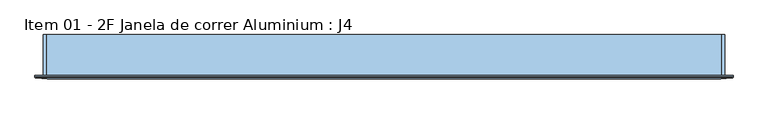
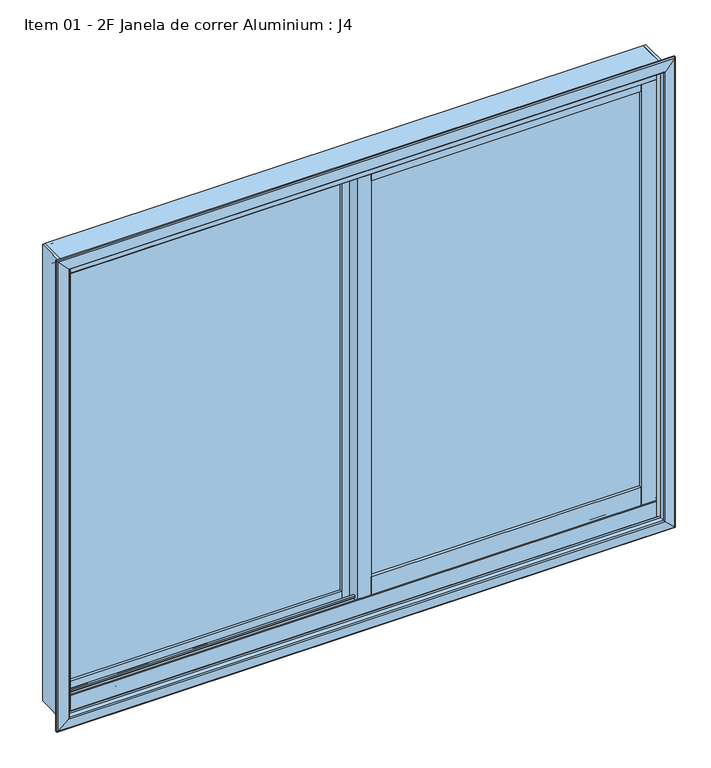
"""IFC4 building model written with IfcOpenShell, lengths in millimetres: window geometry, Item 01 - 2F Janela de correr Aluminium : J4."""

from ifc_helpers import new_model, si_unit, frame, origin, place, context, project, spatial, polyline, circle_curve, ellipse_curve, outline, extrude, source, transform, mapped, element, save
from ifc_brep_helpers import plane_surface, cylinder_surface, revolved_surface, advanced_brep


def item_01_2f_janela_de_correr_aluminium_j4_4bfe350a(model_context):
    return source(origin(), model_context, "Body", "SolidModel", [
        extrude(outline(polyline([(-27.3998339, -10.3), (-27.3998339, -14.3), (-704.750983, -14.3), (-704.750983, -10.3), (-27.3998339, -10.3)])), frame((0.0, 0.0, 857.0), z_axis=(0.0, 0.0, 1.0), x_axis=(1.0, 0.0, 0.0)), (0.0, 0.0, 1.0), 1080.5),
        extrude(outline(polyline([(27.2998339, -45.9), (27.2998339, -41.9), (698.868646, -41.9), (698.868646, -45.9), (27.2998339, -45.9)])), frame((0.0, 0.0, 895.5), z_axis=(0.0, 0.0, 1.0), x_axis=(1.0, 0.0, 0.0)), (0.0, 0.0, 1.0), 1042.0),
        extrude(outline(polyline([(698.868646, -33.9), (698.868646, -53.9), (27.2998339, -53.9), (27.2998339, -33.9), (698.868646, -33.9)])), frame((0.0, 0.0, 847.9996573), z_axis=(0.0, 0.0, 1.0), x_axis=(1.0, 0.0, 0.0)), (0.0, 0.0, 1.0), 47.5003427),
        extrude(outline(polyline([(698.868646, -33.9), (698.868646, -53.9), (27.2998339, -53.9), (27.2998339, -33.9), (698.868646, -33.9)])), frame((0.0, 0.0, 1937.4996573), z_axis=(0.0, 0.0, 1.0), x_axis=(1.0, 0.0, 0.0)), (0.0, 0.0, 1.0), 34.5),
        extrude(outline(polyline([(-27.3998339, -2.3), (-27.3998339, -22.3), (-704.750983, -22.3), (-704.750983, -2.3), (-27.3998339, -2.3)])), frame((0.0, 0.0, 821.0), z_axis=(0.0, 0.0, 1.0), x_axis=(1.0, 0.0, 0.0)), (0.0, 0.0, 1.0), 36.0),
        extrude(outline(polyline([(-27.3998339, -2.3), (-27.3998339, -22.3), (-704.750983, -22.3), (-704.750983, -2.3), (-27.3998339, -2.3)])), frame((0.0, 0.0, 1937.5), z_axis=(0.0, 0.0, 1.0), x_axis=(1.0, 0.0, 0.0)), (0.0, 0.0, 1.0), 34.5),
        extrude(outline(polyline([(-704.750983, -22.3), (-743.0, -22.3), (-743.0, -2.3), (-704.750983, -2.3), (-704.750983, -22.3)])), frame((0.0, 0.0, 821.0), z_axis=(0.0, 0.0, 1.0), x_axis=(1.0, 0.0, 0.0)), (0.0, 0.0, 1.0), 1151.0),
        extrude(outline(polyline([(-27.3998339, -22.3), (-27.3998339, -2.3), (7.6001661, -2.3), (7.6001661, -33.9), (27.2998339, -33.9), (27.2998339, -53.9), (-7.6001661, -53.9), (-7.6001661, -22.3), (-27.3998339, -22.3)])), frame((0.0, 0.0, 821.0), z_axis=(0.0, 0.0, 1.0), x_axis=(1.0, 0.0, 0.0)), (0.0, 0.0, 1.0), 1151.0),
        extrude(outline(polyline([(743.0, -53.9), (698.868646, -53.9), (698.868646, -33.9), (743.0, -33.9), (743.0, -53.9)])), frame((0.0, 0.0, 821.0), z_axis=(0.0, 0.0, 1.0), x_axis=(1.0, 0.0, 0.0)), (0.0, 0.0, 1.0), 1151.0),
        advanced_brep(
        [(-742.5998339, 8.5620965, 810.2470077), (-742.5998339, 8.5620965, 801.4000436), (-742.5998339, 13.600001, 801.4000436), (-742.5998339, 13.600001, 807.4000364), (-742.5998339, 14.9999993, 807.4000364), (-742.5998339, 15.0, 800.0), (-742.5998339, -75.0, 800.0), (-742.5998339, -75.0, 807.4000364), (-742.5998339, -73.6000017, 807.4000364), (-742.5998339, -73.6000017, 801.3999983), (-742.5998339, -68.6000077, 801.3999983), (-742.5998339, -68.6000077, 815.5000406), (-742.5998339, -66.9001002, 815.5000406), (-742.5998339, -66.9002002, 855.4959852), (-742.5998339, -63.9002108, 855.4999745), (-742.5998339, -63.9002039, 852.9999952), (-742.5998339, -65.5001025, 852.0762974), (-742.5998339, -65.4999102, 840.5017467), (-742.5998339, -64.5522917, 839.4937615), (-742.5998339, -42.5000392, 838.337999), (-742.5998339, -42.5000392, 852.496362), (-742.5998339, -44.7000484, 852.496362), (-742.5998339, -44.7000484, 848.6999865), (-742.5998339, -46.1007067, 848.6999865), (-742.5998339, -46.1007067, 852.4947997), (-742.5998339, -41.099933, 852.4947997), (-742.5998339, -41.099933, 838.2646991), (-742.5998339, -39.464205, 838.1789418), (-742.5998339, -35.731283, 834.861102), (-742.5998339, -32.3590937, 815.7367048), (-742.5998339, -29.9346709, 813.5917613), (-742.5998339, -14.4999651, 812.7828298), (-742.5998339, -14.4999651, 825.4891381), (-742.5998339, -9.4999947, 825.4999956), (-742.5998339, -9.4999711, 821.7000191), (-742.5998339, -10.8999694, 821.7000191), (-742.5998339, -10.8999694, 825.4963945), (-742.5998339, -13.0999825, 825.4963945), (-742.5998339, -13.0999825, 812.7095299), (-742.5998339, 7.2297593, 811.6448774), (742.5998339, 8.5620965, 810.2470077), (742.5998339, 8.5620965, 801.4000436), (742.5998339, 13.600001, 801.4000436), (742.5998339, 13.600001, 807.4000364), (742.5998339, 14.9999993, 807.4000364), (742.5998339, 15.0, 800.0), (742.5998339, -75.0, 800.0), (742.5998339, -75.0, 807.4000364), (742.5998339, -73.6000017, 807.4000364), (742.5998339, -73.6000017, 801.3999983), (742.5998339, -68.6000077, 801.3999983), (742.5998339, -68.6000077, 815.5000406), (742.5998339, -66.9001002, 815.5000406), (742.5998339, -66.9002002, 855.4959852), (742.5998339, -63.9002108, 855.4999745), (742.5998339, -63.9002039, 852.9999952), (742.5998339, -65.5001025, 852.0762974), (742.5998339, -65.4999102, 840.5017467), (742.5998339, -64.5522917, 839.4937615), (742.5998339, -42.5000392, 838.337999), (742.5998339, -42.5000392, 852.496362), (742.5998339, -44.7000484, 852.496362), (742.5998339, -44.7000484, 848.6999865), (742.5998339, -46.1007067, 848.6999865), (742.5998339, -46.1007067, 852.4947997), (742.5998339, -41.099933, 852.4947997), (742.5998339, -41.099933, 838.2646991), (742.5998339, -39.464205, 838.1789418), (742.5998339, -35.731283, 834.861102), (742.5998339, -32.3590937, 815.7367048), (742.5998339, -29.9346709, 813.5917613), (742.5998339, -14.4999651, 812.7828298), (742.5998339, -14.4999651, 825.4891381), (742.5998339, -9.4999947, 825.4999956), (742.5998339, -9.4999711, 821.7000191), (742.5998339, -10.8999694, 821.7000191), (742.5998339, -10.8999694, 825.4963945), (742.5998339, -13.0999825, 825.4963945), (742.5998339, -13.0999825, 812.7095299), (742.5998339, 7.2297593, 811.6448774)],
        [
            (0, 1),
            (1, 2),
            (2, 3),
            (3, 4),
            (4, 5),
            (5, 6),
            (6, 7),
            (7, 8),
            (8, 9),
            (9, 10),
            (10, 11),
            (11, 12),
            (12, 13),
            (13, 14, circle_curve(frame((-742.5998339, -65.4002082, 855.4999743), z_axis=(-1.0, 0.0, 0.0), x_axis=(0.0, 0.0, 1.0)), 1.4999974)),
            (14, 15),
            (15, 16),
            (16, 17),
            (17, 18, circle_curve(frame((-742.5998339, -64.4999552, 840.4923898), z_axis=(1.0, 0.0, 0.0), x_axis=(0.0, 0.0, 1.0)), 0.9999988)),
            (18, 19),
            (19, 20),
            (20, 21, circle_curve(frame((-742.5998339, -43.6000438, 852.496362), z_axis=(1.0, 0.0, 0.0), x_axis=(0.0, 0.0, 1.0)), 1.1000046)),
            (21, 22),
            (22, 23, circle_curve(frame((-742.5998339, -45.4003775, 848.6999865), z_axis=(-1.0, 0.0, 0.0), x_axis=(0.0, 0.0, 1.0)), 0.7003292)),
            (23, 24),
            (24, 25, circle_curve(frame((-742.5998339, -43.6003199, 852.4947997), z_axis=(-1.0, 0.0, 0.0), x_axis=(0.0, 0.0, 1.0)), 2.5003869)),
            (25, 26),
            (26, 27),
            (27, 28, circle_curve(frame((-742.5998339, -39.6736275, 834.1844326), z_axis=(-1.0, 0.0, 0.0), x_axis=(0.0, 0.0, 1.0)), 3.9999952)),
            (28, 29),
            (29, 30, circle_curve(frame((-742.5998339, -29.7985976, 816.188195), z_axis=(1.0, 0.0, 0.0), x_axis=(0.0, 0.0, 1.0)), 2.5999969)),
            (30, 31),
            (31, 32),
            (32, 33, circle_curve(frame((-742.5998339, -11.9999917, 825.4999955), z_axis=(-1.0, 0.0, 0.0), x_axis=(0.0, 0.0, 1.0)), 2.499997)),
            (33, 34),
            (34, 35, circle_curve(frame((-742.5998339, -10.1999703, 821.7000191), z_axis=(-1.0, 0.0, 0.0), x_axis=(0.0, 0.0, 1.0)), 0.6999992)),
            (35, 36),
            (36, 37, circle_curve(frame((-742.5998339, -11.9999759, 825.4963945), z_axis=(1.0, 0.0, 0.0), x_axis=(0.0, 0.0, 1.0)), 1.1000065)),
            (37, 38),
            (38, 39),
            (39, 0, circle_curve(frame((-742.5998339, 7.1626152, 810.2470077), z_axis=(-1.0, 0.0, 0.0), x_axis=(0.0, 0.0, 1.0)), 1.3994814)),
            (0, 40),
            (40, 41),
            (41, 1),
            (41, 42),
            (42, 2),
            (42, 43),
            (43, 3),
            (43, 44),
            (44, 4),
            (44, 45),
            (45, 5),
            (45, 46),
            (46, 6),
            (46, 47),
            (47, 7),
            (47, 48),
            (48, 8),
            (48, 49),
            (49, 9),
            (49, 50),
            (50, 10),
            (50, 51),
            (51, 11),
            (51, 52),
            (52, 12),
            (52, 53),
            (53, 13),
            (53, 54, circle_curve(frame((742.5998339, -65.4002082, 855.4999743), z_axis=(-1.0, 0.0, 0.0), x_axis=(0.0, 0.0, 1.0)), 1.4999974)),
            (54, 14),
            (54, 55),
            (55, 15),
            (55, 56),
            (56, 16),
            (56, 57),
            (57, 17),
            (57, 58, circle_curve(frame((742.5998339, -64.4999552, 840.4923898), z_axis=(1.0, 0.0, 0.0), x_axis=(0.0, 0.0, 1.0)), 0.9999988)),
            (58, 18),
            (58, 59),
            (59, 19),
            (59, 60),
            (60, 20),
            (60, 61, circle_curve(frame((742.5998339, -43.6000438, 852.496362), z_axis=(1.0, 0.0, 0.0), x_axis=(0.0, 0.0, 1.0)), 1.1000046)),
            (61, 21),
            (61, 62),
            (62, 22),
            (62, 63, circle_curve(frame((742.5998339, -45.4003775, 848.6999865), z_axis=(-1.0, 0.0, 0.0), x_axis=(0.0, 0.0, 1.0)), 0.7003292)),
            (63, 23),
            (63, 64),
            (64, 24),
            (64, 65, circle_curve(frame((742.5998339, -43.6003199, 852.4947997), z_axis=(-1.0, 0.0, 0.0), x_axis=(0.0, 0.0, 1.0)), 2.5003869)),
            (65, 25),
            (65, 66),
            (66, 26),
            (66, 67),
            (67, 27),
            (67, 68, circle_curve(frame((742.5998339, -39.6736275, 834.1844326), z_axis=(-1.0, 0.0, 0.0), x_axis=(0.0, 0.0, 1.0)), 3.9999952)),
            (68, 28),
            (68, 69),
            (69, 29),
            (69, 70, circle_curve(frame((742.5998339, -29.7985976, 816.188195), z_axis=(1.0, 0.0, 0.0), x_axis=(0.0, 0.0, 1.0)), 2.5999969)),
            (70, 30),
            (70, 71),
            (71, 31),
            (71, 72),
            (72, 32),
            (72, 73, circle_curve(frame((742.5998339, -11.9999917, 825.4999955), z_axis=(-1.0, 0.0, 0.0), x_axis=(0.0, 0.0, 1.0)), 2.499997)),
            (73, 33),
            (73, 74),
            (74, 34),
            (74, 75, circle_curve(frame((742.5998339, -10.1999703, 821.7000191), z_axis=(-1.0, 0.0, 0.0), x_axis=(0.0, 0.0, 1.0)), 0.6999992)),
            (75, 35),
            (75, 76),
            (76, 36),
            (76, 77, circle_curve(frame((742.5998339, -11.9999759, 825.4963945), z_axis=(1.0, 0.0, 0.0), x_axis=(0.0, 0.0, 1.0)), 1.1000065)),
            (77, 37),
            (77, 78),
            (78, 38),
            (78, 79),
            (79, 39),
            (79, 40, circle_curve(frame((742.5998339, 7.1626152, 810.2470077), z_axis=(-1.0, 0.0, 0.0), x_axis=(0.0, 0.0, 1.0)), 1.3994814)),
        ],
        [
            plane_surface(frame((-742.5998339, -75.0, 2000.0), z_axis=(-1.0, 0.0, 0.0), x_axis=(0.0, -1.0, 0.0))),
            plane_surface(frame((-742.5998339, 8.5620965, 810.2470077), z_axis=(0.0, 1.0, 0.0), x_axis=(1.0, 0.0, 0.0))),
            plane_surface(frame((-742.5998339, 8.5620965, 801.4000436), z_axis=(0.0, 0.0, 1.0), x_axis=(1.0, 0.0, 0.0))),
            plane_surface(frame((-742.5998339, 13.600001, 801.4000436), z_axis=(0.0, -1.0, 0.0), x_axis=(1.0, 0.0, 0.0))),
            plane_surface(frame((-742.5998339, 13.600001, 807.4000364), z_axis=(0.0, 0.0, 1.0), x_axis=(1.0, 0.0, 0.0))),
            plane_surface(frame((-742.5998339, 14.9999993, 807.4000364), z_axis=(0.0, 0.999999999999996, 9.01305508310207e-08), x_axis=(1.0, 0.0, 0.0))),
            plane_surface(frame((-742.5998339, 15.0, 800.0), z_axis=(0.0, 0.0, -1.0), x_axis=(1.0, 0.0, 0.0))),
            plane_surface(frame((-742.5998339, -75.0, 800.0), z_axis=(0.0, -1.0, 0.0), x_axis=(1.0, 0.0, 0.0))),
            plane_surface(frame((-742.5998339, -75.0, 807.4000364), z_axis=(0.0, 0.0, 1.0), x_axis=(1.0, 0.0, 0.0))),
            plane_surface(frame((-742.5998339, -73.6000017, 807.4000364), z_axis=(0.0, 1.0, 0.0), x_axis=(1.0, 0.0, 0.0))),
            plane_surface(frame((-742.5998339, -73.6000017, 801.3999983), z_axis=(0.0, 0.0, 1.0), x_axis=(1.0, 0.0, 0.0))),
            plane_surface(frame((-742.5998339, -68.6000077, 801.3999983), z_axis=(0.0, -1.0, 0.0), x_axis=(1.0, 0.0, 0.0))),
            plane_surface(frame((-742.5998339, -68.6000077, 815.5000406), z_axis=(0.0, 0.0, 1.0), x_axis=(1.0, 0.0, 0.0))),
            plane_surface(frame((-742.5998339, -66.9001002, 815.5000406), z_axis=(0.0, -0.999999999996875, -2.50000000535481e-06), x_axis=(1.0, 0.0, 0.0))),
            cylinder_surface(frame((-742.5998339, -65.4002082, 855.4999743), z_axis=(-1.0, 0.0, 0.0), x_axis=(0.0, 0.0, 1.0)), 1.4999974),
            plane_surface(frame((-742.5998339, -63.9002039, 855.4999927), z_axis=(0.0, 1.0, 0.0), x_axis=(1.0, 0.0, 0.0))),
            plane_surface(frame((-742.5998339, -63.9002039, 852.9999952), z_axis=(0.0, 0.4999983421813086, -0.8660263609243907), x_axis=(1.0, 0.0, 0.0))),
            plane_surface(frame((-742.5998339, -65.5001025, 852.0762974), z_axis=(0.0, 0.9999999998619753, 1.6614737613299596e-05), x_axis=(1.0, 0.0, 0.0))),
            revolved_surface(polyline([(742.5998339, -64.4999552, 841.4923885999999), (-742.5998339, -64.4999552, 841.4923885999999)]), (-742.5998339, -64.4999552, 840.4923898), (1.0, 0.0, 0.0)),
            plane_surface(frame((-742.5998339, -64.5523119, 839.493712), z_axis=(0.0, 0.05233606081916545, 0.9986295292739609), x_axis=(1.0, 0.0, 0.0))),
            plane_surface(frame((-742.5998339, -42.5000392, 838.337999), z_axis=(0.0, -1.0, 0.0), x_axis=(1.0, 0.0, 0.0))),
            revolved_surface(polyline([(742.5998339, -43.6000438, 853.5963666), (-742.5998339, -43.6000438, 853.5963666)]), (-742.5998339, -43.6000438, 852.496362), (1.0, 0.0, 0.0)),
            plane_surface(frame((-742.5998339, -44.7000484, 852.496362), z_axis=(0.0, 1.0, 0.0), x_axis=(1.0, 0.0, 0.0))),
            cylinder_surface(frame((-742.5998339, -45.4003775, 848.6999865), z_axis=(-1.0, 0.0, 0.0), x_axis=(0.0, 0.0, 1.0)), 0.7003292),
            plane_surface(frame((-742.5998339, -46.1007067, 848.6999865), z_axis=(0.0, -1.0, 0.0), x_axis=(1.0, 0.0, 0.0))),
            cylinder_surface(frame((-742.5998339, -43.6003199, 852.4947997), z_axis=(-1.0, 0.0, 0.0), x_axis=(0.0, 0.0, 1.0)), 2.5003869),
            plane_surface(frame((-742.5998339, -41.099933, 852.4947997), z_axis=(0.0, 1.0, 0.0), x_axis=(1.0, 0.0, 0.0))),
            plane_surface(frame((-742.5998339, -41.099933, 838.2646991), z_axis=(0.0, 0.05235569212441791, 0.998628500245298), x_axis=(1.0, 0.0, 0.0))),
            cylinder_surface(frame((-742.5998339, -39.6736275, 834.1844326), z_axis=(-1.0, 0.0, 0.0), x_axis=(0.0, 0.0, 1.0)), 3.9999952),
            plane_surface(frame((-742.5998339, -35.731283, 834.861102), z_axis=(0.0, 0.9848073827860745, 0.1736502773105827), x_axis=(1.0, 0.0, 0.0))),
            revolved_surface(polyline([(742.5998339, -29.7985976, 818.7881918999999), (-742.5998339, -29.7985976, 818.7881918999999)]), (-742.5998339, -29.7985976, 816.188195), (1.0, 0.0, 0.0)),
            plane_surface(frame((-742.5998339, -29.9346464, 813.5917288), z_axis=(0.0, 0.05233606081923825, 0.9986295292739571), x_axis=(1.0, 0.0, 0.0))),
            plane_surface(frame((-742.5998339, -14.4999651, 812.7828298), z_axis=(0.0, -1.0, 0.0), x_axis=(1.0, 0.0, 0.0))),
            cylinder_surface(frame((-742.5998339, -11.9999917, 825.4999955), z_axis=(-1.0, 0.0, 0.0), x_axis=(0.0, 0.0, 1.0)), 2.499997),
            plane_surface(frame((-742.5998339, -9.4999711, 825.5000145), z_axis=(0.0, 1.0, 0.0), x_axis=(1.0, 0.0, 0.0))),
            cylinder_surface(frame((-742.5998339, -10.1999703, 821.7000191), z_axis=(-1.0, 0.0, 0.0), x_axis=(0.0, 0.0, 1.0)), 0.6999992),
            plane_surface(frame((-742.5998339, -10.8999694, 821.7000191), z_axis=(0.0, -1.0, 0.0), x_axis=(1.0, 0.0, 0.0))),
            revolved_surface(polyline([(742.5998339, -11.9999759, 826.5964009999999), (-742.5998339, -11.9999759, 826.5964009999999)]), (-742.5998339, -11.9999759, 825.4963945), (1.0, 0.0, 0.0)),
            plane_surface(frame((-742.5998339, -13.0999825, 825.4963945), z_axis=(0.0, 1.0, 0.0), x_axis=(1.0, 0.0, 0.0))),
            plane_surface(frame((-742.5998339, -13.0999825, 812.7095299), z_axis=(0.0, 0.052297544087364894, 0.9986315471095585), x_axis=(1.0, 0.0, 0.0))),
            cylinder_surface(frame((-742.5998339, 7.1626152, 810.2470077), z_axis=(-1.0, 0.0, 0.0), x_axis=(0.0, 0.0, 1.0)), 1.3994814),
            plane_surface(frame((742.5998339, -75.0, 2000.0), z_axis=(1.0, 0.0, 0.0), x_axis=(0.0, -1.0, 0.0))),
        ],
        [
            (0, [[1, 2, 3, 4, 5, 6, 7, 8, 9, 10, 11, 12, 13, 14, 15, 16, 17, 18, 19, 20, 21, 22, 23, 24, 25, 26, 27, 28, 29, 30, 31, 32, 33, 34, 35, 36, 37, 38, 39, 40]]),
            (1, [[-1, 41, 42, 43]]),
            (2, [[-2, -43, 44, 45]]),
            (3, [[-3, -45, 46, 47]]),
            (4, [[-4, -47, 48, 49]]),
            (5, [[-5, -49, 50, 51]]),
            (6, [[-6, -51, 52, 53]]),
            (7, [[-7, -53, 54, 55]]),
            (8, [[-8, -55, 56, 57]]),
            (9, [[-9, -57, 58, 59]]),
            (10, [[-10, -59, 60, 61]]),
            (11, [[-11, -61, 62, 63]]),
            (12, [[-12, -63, 64, 65]]),
            (13, [[-13, -65, 66, 67]]),
            (14, [[-14, -67, 68, 69]]),
            (15, [[-15, -69, 70, 71]]),
            (16, [[-16, -71, 72, 73]]),
            (17, [[-17, -73, 74, 75]]),
            (18, [[-18, -75, 76, 77]]),
            (19, [[-19, -77, 78, 79]]),
            (20, [[-20, -79, 80, 81]]),
            (21, [[-21, -81, 82, 83]]),
            (22, [[-22, -83, 84, 85]]),
            (23, [[-23, -85, 86, 87]]),
            (24, [[-24, -87, 88, 89]]),
            (25, [[-25, -89, 90, 91]]),
            (26, [[-26, -91, 92, 93]]),
            (27, [[-27, -93, 94, 95]]),
            (28, [[-28, -95, 96, 97]]),
            (29, [[-29, -97, 98, 99]]),
            (30, [[-30, -99, 100, 101]]),
            (31, [[-31, -101, 102, 103]]),
            (32, [[-32, -103, 104, 105]]),
            (33, [[-33, -105, 106, 107]]),
            (34, [[-34, -107, 108, 109]]),
            (35, [[-35, -109, 110, 111]]),
            (36, [[-36, -111, 112, 113]]),
            (37, [[-37, -113, 114, 115]]),
            (38, [[-38, -115, 116, 117]]),
            (39, [[-39, -117, 118, 119]]),
            (40, [[-40, -119, 120, -41]]),
            (41, [[-120, -118, -116, -114, -112, -110, -108, -106, -104, -102, -100, -98, -96, -94, -92, -90, -88, -86, -84, -82, -80, -78, -76, -74, -72, -70, -68, -66, -64, -62, -60, -58, -56, -54, -52, -50, -48, -46, -44, -42]]),
        ],
    ),
        advanced_brep(
        [(-742.5998339, -66.8990741, 1965.5), (-742.5998339, -66.8990741, 1984.5), (-742.5998339, -68.5994745, 1984.5), (-742.5998339, -68.5994745, 1998.6), (-742.5998339, -73.5994745, 1998.6), (-742.5998339, -73.5994745, 1992.6), (-742.5998339, -74.9994395, 1992.6), (-742.5998339, -74.9994395, 2000.0), (-742.5998339, 15.0005605, 2000.0), (-742.5998339, 15.0005605, 1992.6), (-742.5998339, 13.6005455, 1992.6), (-742.5998339, 13.6005455, 1998.6), (-742.5998339, 8.6005455, 1998.6), (-742.5998339, 8.6005455, 1984.5), (-742.5998339, 6.9005605, 1984.5), (-742.5998339, 6.9005605, 1961.0), (-742.5998339, 5.5005605, 1960.0834849), (-742.5998339, 5.5005605, 1984.5), (-742.5998339, -13.0994395, 1984.5), (-742.5998339, -13.0994395, 1966.4999475), (-742.5998339, -10.8994395, 1966.4999475), (-742.5998339, -10.8994395, 1970.298754), (-742.5998339, -9.4986209, 1970.298754), (-742.5998339, -9.4986209, 1966.4999475), (-742.5998339, -14.5002581, 1966.4999475), (-742.5998339, -14.5002581, 1984.5), (-742.5998339, -41.0986209, 1984.5), (-742.5998339, -41.0986209, 1966.499981), (-742.5998339, -46.1002581, 1966.499981), (-742.5998339, -46.1002581, 1970.2997289), (-742.5998339, -44.6994395, 1970.2997289), (-742.5998339, -44.6994395, 1966.499981), (-742.5998339, -42.4994395, 1966.499981), (-742.5998339, -42.4994395, 1984.5), (-742.5998339, -65.4994049, 1984.5), (-742.5998339, -65.4994049, 1968.9237013), (-742.5998339, -63.8998049, 1968.0002013), (-742.5998339, -63.8998049, 1965.5), (742.5998339, -66.8990741, 1965.5), (742.5998339, -63.8998049, 1965.5), (742.5998339, -63.8998049, 1968.0002013), (742.5998339, -65.4994049, 1968.9237013), (742.5998339, -65.4994049, 1984.5), (742.5998339, -42.4994395, 1984.5), (742.5998339, -42.4994395, 1966.499981), (742.5998339, -44.6994395, 1966.499981), (742.5998339, -44.6994395, 1970.2997289), (742.5998339, -46.1002581, 1970.2997289), (742.5998339, -46.1002581, 1966.499981), (742.5998339, -41.0986209, 1966.499981), (742.5998339, -41.0986209, 1984.5), (742.5998339, -14.5002581, 1984.5), (742.5998339, -14.5002581, 1966.4999475), (742.5998339, -9.4986209, 1966.4999475), (742.5998339, -9.4986209, 1970.298754), (742.5998339, -10.8994395, 1970.298754), (742.5998339, -10.8994395, 1966.4999475), (742.5998339, -13.0994395, 1966.4999475), (742.5998339, -13.0994395, 1984.5), (742.5998339, 5.5005605, 1984.5), (742.5998339, 5.5005605, 1960.0834849), (742.5998339, 6.9005605, 1961.0), (742.5998339, 6.9005605, 1984.5), (742.5998339, 8.6005455, 1984.5), (742.5998339, 8.6005455, 1998.6), (742.5998339, 13.6005455, 1998.6), (742.5998339, 13.6005455, 1992.6), (742.5998339, 15.0005605, 1992.6), (742.5998339, 15.0005605, 2000.0), (742.5998339, -74.9994395, 2000.0), (742.5998339, -74.9994395, 1992.6), (742.5998339, -73.5994745, 1992.6), (742.5998339, -73.5994745, 1998.6), (742.5998339, -68.5994745, 1998.6), (742.5998339, -68.5994745, 1984.5), (742.5998339, -66.8990741, 1984.5)],
        [
            (0, 1),
            (1, 2),
            (2, 3),
            (3, 4),
            (4, 5),
            (5, 6),
            (6, 7),
            (7, 8),
            (8, 9),
            (9, 10),
            (10, 11),
            (11, 12),
            (12, 13),
            (13, 14),
            (14, 15),
            (15, 16, circle_curve(frame((-742.5998339, 5.9005605, 1961.0), z_axis=(-1.0, 0.0, 0.0), x_axis=(0.0, 0.0, 1.0)), 1.0)),
            (16, 17),
            (17, 18),
            (18, 19),
            (19, 20, circle_curve(frame((-742.5998339, -11.9994395, 1966.4999475), z_axis=(1.0, 0.0, 0.0), x_axis=(0.0, 0.0, 1.0)), 1.1)),
            (20, 21),
            (21, 22, circle_curve(frame((-742.5998339, -10.1990302, 1970.298754), z_axis=(-1.0, 0.0, 0.0), x_axis=(0.0, 0.0, 1.0)), 0.7004093)),
            (22, 23),
            (23, 24, circle_curve(frame((-742.5998339, -11.9994395, 1966.4999475), z_axis=(-1.0, 0.0, 0.0), x_axis=(0.0, 0.0, 1.0)), 2.5008186)),
            (24, 25),
            (25, 26),
            (26, 27),
            (27, 28, circle_curve(frame((-742.5998339, -43.5994395, 1966.499981), z_axis=(-1.0, 0.0, 0.0), x_axis=(0.0, 0.0, 1.0)), 2.5008186)),
            (28, 29),
            (29, 30, circle_curve(frame((-742.5998339, -45.3998488, 1970.2997289), z_axis=(-1.0, 0.0, 0.0), x_axis=(0.0, 0.0, 1.0)), 0.7004093)),
            (30, 31),
            (31, 32, circle_curve(frame((-742.5998339, -43.5994395, 1966.499981), z_axis=(1.0, 0.0, 0.0), x_axis=(0.0, 0.0, 1.0)), 1.1)),
            (32, 33),
            (33, 34),
            (34, 35),
            (35, 36),
            (36, 37),
            (37, 0, circle_curve(frame((-742.5998339, -65.3994395, 1965.5), z_axis=(-1.0, 0.0, 0.0), x_axis=(0.0, 0.0, 1.0)), 1.4996346)),
            (38, 39, circle_curve(frame((742.5998339, -65.3994395, 1965.5), z_axis=(1.0, 0.0, 0.0), x_axis=(0.0, 0.0, 1.0)), 1.4996346)),
            (39, 40),
            (40, 41),
            (41, 42),
            (42, 43),
            (43, 44),
            (44, 45, circle_curve(frame((742.5998339, -43.5994395, 1966.499981), z_axis=(-1.0, 0.0, 0.0), x_axis=(0.0, 0.0, 1.0)), 1.1)),
            (45, 46),
            (46, 47, circle_curve(frame((742.5998339, -45.3998488, 1970.2997289), z_axis=(1.0, 0.0, 0.0), x_axis=(0.0, 0.0, 1.0)), 0.7004093)),
            (47, 48),
            (48, 49, circle_curve(frame((742.5998339, -43.5994395, 1966.499981), z_axis=(1.0, 0.0, 0.0), x_axis=(0.0, 0.0, 1.0)), 2.5008186)),
            (49, 50),
            (50, 51),
            (51, 52),
            (52, 53, circle_curve(frame((742.5998339, -11.9994395, 1966.4999475), z_axis=(1.0, 0.0, 0.0), x_axis=(0.0, 0.0, 1.0)), 2.5008186)),
            (53, 54),
            (54, 55, circle_curve(frame((742.5998339, -10.1990302, 1970.298754), z_axis=(1.0, 0.0, 0.0), x_axis=(0.0, 0.0, 1.0)), 0.7004093)),
            (55, 56),
            (56, 57, circle_curve(frame((742.5998339, -11.9994395, 1966.4999475), z_axis=(-1.0, 0.0, 0.0), x_axis=(0.0, 0.0, 1.0)), 1.1)),
            (57, 58),
            (58, 59),
            (59, 60),
            (60, 61, circle_curve(frame((742.5998339, 5.9005605, 1961.0), z_axis=(1.0, 0.0, 0.0), x_axis=(0.0, 0.0, 1.0)), 1.0)),
            (61, 62),
            (62, 63),
            (63, 64),
            (64, 65),
            (65, 66),
            (66, 67),
            (67, 68),
            (68, 69),
            (69, 70),
            (70, 71),
            (71, 72),
            (72, 73),
            (73, 74),
            (74, 75),
            (75, 38),
            (0, 38),
            (75, 1),
            (74, 2),
            (73, 3),
            (72, 4),
            (71, 5),
            (70, 6),
            (69, 7),
            (68, 8),
            (67, 9),
            (66, 10),
            (65, 11),
            (64, 12),
            (63, 13),
            (62, 14),
            (61, 15),
            (60, 16),
            (59, 17),
            (58, 18),
            (57, 19),
            (56, 20),
            (55, 21),
            (54, 22),
            (53, 23),
            (52, 24),
            (51, 25),
            (50, 26),
            (49, 27),
            (48, 28),
            (47, 29),
            (46, 30),
            (45, 31),
            (44, 32),
            (43, 33),
            (42, 34),
            (41, 35),
            (40, 36),
            (39, 37),
        ],
        [
            plane_surface(frame((-742.5998339, -75.0, 2000.0), z_axis=(-1.0, 0.0, 0.0), x_axis=(0.0, -1.0, 0.0))),
            plane_surface(frame((742.5998339, -75.0, 2000.0), z_axis=(1.0, 0.0, 0.0), x_axis=(0.0, -1.0, 0.0))),
            plane_surface(frame((-742.5998339, -66.8990741, 1965.5), z_axis=(0.0, -1.0, 0.0), x_axis=(1.0, 0.0, 0.0))),
            plane_surface(frame((-742.5998339, -66.8990741, 1984.5), z_axis=(0.0, 0.0, -1.0), x_axis=(1.0, 0.0, 0.0))),
            plane_surface(frame((-742.5998339, -68.5994745, 1984.5), z_axis=(0.0, -1.0, 0.0), x_axis=(1.0, 0.0, 0.0))),
            plane_surface(frame((-742.5998339, -68.5994745, 1998.6), z_axis=(0.0, 0.0, -1.0), x_axis=(1.0, 0.0, 0.0))),
            plane_surface(frame((-742.5998339, -73.5994745, 1998.6), z_axis=(0.0, 1.0, 0.0), x_axis=(1.0, 0.0, 0.0))),
            plane_surface(frame((-742.5998339, -73.5994745, 1992.6), z_axis=(0.0, 0.0, -1.0), x_axis=(1.0, 0.0, 0.0))),
            plane_surface(frame((-742.5998339, -74.9994395, 1992.6), z_axis=(0.0, -1.0, 0.0), x_axis=(1.0, 0.0, 0.0))),
            plane_surface(frame((-742.5998339, -74.9994395, 2000.0), z_axis=(0.0, 0.0, 1.0), x_axis=(1.0, 0.0, 0.0))),
            plane_surface(frame((-742.5998339, 15.0005605, 2000.0), z_axis=(0.0, 1.0, 0.0), x_axis=(1.0, 0.0, 0.0))),
            plane_surface(frame((-742.5998339, 15.0005605, 1992.6), z_axis=(0.0, 0.0, -1.0), x_axis=(1.0, 0.0, 0.0))),
            plane_surface(frame((-742.5998339, 13.6005455, 1992.6), z_axis=(0.0, -1.0, 0.0), x_axis=(1.0, 0.0, 0.0))),
            plane_surface(frame((-742.5998339, 13.6005455, 1998.6), z_axis=(0.0, 0.0, -1.0), x_axis=(1.0, 0.0, 0.0))),
            plane_surface(frame((-742.5998339, 8.6005455, 1998.6), z_axis=(0.0, 1.0, 0.0), x_axis=(1.0, 0.0, 0.0))),
            plane_surface(frame((-742.5998339, 8.6005455, 1984.5), z_axis=(0.0, 0.0, -1.0), x_axis=(1.0, 0.0, 0.0))),
            plane_surface(frame((-742.5998339, 6.9005605, 1984.5), z_axis=(0.0, 1.0, 0.0), x_axis=(1.0, 0.0, 0.0))),
            cylinder_surface(frame((-742.5998339, 5.9005605, 1961.0), z_axis=(-1.0, 0.0, 0.0), x_axis=(0.0, 0.0, 1.0)), 1.0),
            plane_surface(frame((-742.5998339, 5.5005605, 1960.0834849), z_axis=(0.0, -1.0, 0.0), x_axis=(1.0, 0.0, 0.0))),
            plane_surface(frame((-742.5998339, 5.5005605, 1984.5), z_axis=(0.0, 0.0, -1.0), x_axis=(1.0, 0.0, 0.0))),
            plane_surface(frame((-742.5998339, -13.0994395, 1984.5), z_axis=(0.0, 1.0, 0.0), x_axis=(1.0, 0.0, 0.0))),
            revolved_surface(polyline([(742.5998339, -11.9994395, 1967.5999474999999), (-742.5998339, -11.9994395, 1967.5999474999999)]), (-742.5998339, -11.9994395, 1966.4999475), (1.0, 0.0, 0.0)),
            plane_surface(frame((-742.5998339, -10.8994395, 1966.4999475), z_axis=(0.0, -1.0, 0.0), x_axis=(1.0, 0.0, 0.0))),
            cylinder_surface(frame((-742.5998339, -10.1990302, 1970.298754), z_axis=(-1.0, 0.0, 0.0), x_axis=(0.0, 0.0, 1.0)), 0.7004093),
            plane_surface(frame((-742.5998339, -9.4986209, 1970.298754), z_axis=(0.0, 1.0, 0.0), x_axis=(1.0, 0.0, 0.0))),
            cylinder_surface(frame((-742.5998339, -11.9994395, 1966.4999475), z_axis=(-1.0, 0.0, 0.0), x_axis=(0.0, 0.0, 1.0)), 2.5008186),
            plane_surface(frame((-742.5998339, -14.5002581, 1966.4999475), z_axis=(0.0, -1.0, 0.0), x_axis=(1.0, 0.0, 0.0))),
            plane_surface(frame((-742.5998339, -14.5002581, 1984.5), z_axis=(0.0, 0.0, -1.0), x_axis=(1.0, 0.0, 0.0))),
            plane_surface(frame((-742.5998339, -41.0986209, 1984.5), z_axis=(0.0, 1.0, 0.0), x_axis=(1.0, 0.0, 0.0))),
            cylinder_surface(frame((-742.5998339, -43.5994395, 1966.499981), z_axis=(-1.0, 0.0, 0.0), x_axis=(0.0, 0.0, 1.0)), 2.5008186),
            plane_surface(frame((-742.5998339, -46.1002581, 1966.499981), z_axis=(0.0, -1.0, 0.0), x_axis=(1.0, 0.0, 0.0))),
            cylinder_surface(frame((-742.5998339, -45.3998488, 1970.2997289), z_axis=(-1.0, 0.0, 0.0), x_axis=(0.0, 0.0, 1.0)), 0.7004093),
            plane_surface(frame((-742.5998339, -44.6994395, 1970.2997289), z_axis=(0.0, 1.0, 0.0), x_axis=(1.0, 0.0, 0.0))),
            revolved_surface(polyline([(742.5998339, -43.5994395, 1967.5999809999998), (-742.5998339, -43.5994395, 1967.5999809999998)]), (-742.5998339, -43.5994395, 1966.499981), (1.0, 0.0, 0.0)),
            plane_surface(frame((-742.5998339, -42.4994395, 1966.499981), z_axis=(0.0, -1.0, 0.0), x_axis=(1.0, 0.0, 0.0))),
            plane_surface(frame((-742.5998339, -42.4994395, 1984.5), z_axis=(0.0, 0.0, -1.0), x_axis=(1.0, 0.0, 0.0))),
            plane_surface(frame((-742.5998339, -65.4994049, 1984.5), z_axis=(0.0, 1.0, 0.0), x_axis=(1.0, 0.0, 0.0))),
            plane_surface(frame((-742.5998339, -65.4994049, 1968.9237013), z_axis=(0.0, 0.49998802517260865, 0.8660323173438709), x_axis=(1.0, 0.0, 0.0))),
            plane_surface(frame((-742.5998339, -63.8998049, 1968.0002013), z_axis=(0.0, 1.0, 0.0), x_axis=(1.0, 0.0, 0.0))),
            cylinder_surface(frame((-742.5998339, -65.3994395, 1965.5), z_axis=(-1.0, 0.0, 0.0), x_axis=(0.0, 0.0, 1.0)), 1.4996346),
        ],
        [
            (0, [[1, 2, 3, 4, 5, 6, 7, 8, 9, 10, 11, 12, 13, 14, 15, 16, 17, 18, 19, 20, 21, 22, 23, 24, 25, 26, 27, 28, 29, 30, 31, 32, 33, 34, 35, 36, 37, 38]]),
            (1, [[39, 40, 41, 42, 43, 44, 45, 46, 47, 48, 49, 50, 51, 52, 53, 54, 55, 56, 57, 58, 59, 60, 61, 62, 63, 64, 65, 66, 67, 68, 69, 70, 71, 72, 73, 74, 75, 76]]),
            (2, [[-1, 77, -76, 78]]),
            (3, [[-2, -78, -75, 79]]),
            (4, [[-3, -79, -74, 80]]),
            (5, [[-4, -80, -73, 81]]),
            (6, [[-5, -81, -72, 82]]),
            (7, [[-6, -82, -71, 83]]),
            (8, [[-7, -83, -70, 84]]),
            (9, [[-8, -84, -69, 85]]),
            (10, [[-9, -85, -68, 86]]),
            (11, [[-10, -86, -67, 87]]),
            (12, [[-11, -87, -66, 88]]),
            (13, [[-12, -88, -65, 89]]),
            (14, [[-13, -89, -64, 90]]),
            (15, [[-14, -90, -63, 91]]),
            (16, [[-15, -91, -62, 92]]),
            (17, [[-16, -92, -61, 93]]),
            (18, [[-17, -93, -60, 94]]),
            (19, [[-18, -94, -59, 95]]),
            (20, [[-19, -95, -58, 96]]),
            (21, [[-20, -96, -57, 97]]),
            (22, [[-21, -97, -56, 98]]),
            (23, [[-22, -98, -55, 99]]),
            (24, [[-23, -99, -54, 100]]),
            (25, [[-24, -100, -53, 101]]),
            (26, [[-25, -101, -52, 102]]),
            (27, [[-26, -102, -51, 103]]),
            (28, [[-27, -103, -50, 104]]),
            (29, [[-28, -104, -49, 105]]),
            (30, [[-29, -105, -48, 106]]),
            (31, [[-30, -106, -47, 107]]),
            (32, [[-31, -107, -46, 108]]),
            (33, [[-32, -108, -45, 109]]),
            (34, [[-33, -109, -44, 110]]),
            (35, [[-34, -110, -43, 111]]),
            (36, [[-35, -111, -42, 112]]),
            (37, [[-36, -112, -41, 113]]),
            (38, [[-37, -113, -40, 114]]),
            (39, [[-38, -114, -39, -77]]),
        ],
    ),
        extrude(outline(polyline([(-750.0, -75.0), (-750.0, 15.0005605), (-742.5998339, 15.0005605), (-742.5998339, 8.6005605), (-729.5998339, 8.6005605), (-729.5998339, 7.2005603), (-742.5998339, 7.2005603), (-742.5998339, -67.1994395), (-729.5998339, -67.1994395), (-729.5998339, -68.5994395), (-742.5998339, -68.5994395), (-742.5998339, -75.0), (-750.0, -75.0)])), frame((0.0, 0.0, 800.0), z_axis=(0.0, 0.0, 1.0), x_axis=(1.0, 0.0, 0.0)), (0.0, 0.0, 1.0), 1200.0),
        extrude(outline(polyline([(750.0, -75.0), (742.5998339, -75.0), (742.5998339, -68.5994395), (729.5998339, -68.5994395), (729.5998339, -67.1994395), (742.5998339, -67.1994395), (742.5998339, 7.2005603), (729.5998339, 7.2005603), (729.5998339, 8.6005605), (742.5998339, 8.6005605), (742.5998339, 15.0005605), (750.0, 15.0005605), (750.0, -75.0)])), frame((0.0, 0.0, 800.0), z_axis=(0.0, 0.0, 1.0), x_axis=(1.0, 0.0, 0.0)), (0.0, 0.0, 1.0), 1200.0),
        advanced_brep(
        [(766.6179787, -80.8032791, 783.3820213), (741.6179953, -82.990685, 808.3820047), (-741.6179953, -82.990685, 808.3820047), (-766.6179787, -80.8032791, 783.3820213), (768.9000454, -78.301595, 781.0999546), (-768.9000454, -78.301595, 781.0999546), (768.9000454, -75.0, 781.0999546), (-768.9000454, -75.0, 781.0999546), (767.8000705, -78.312794, 782.1999295), (767.8000705, -75.0, 782.1999295), (-767.8000705, -75.0, 782.1999295), (-767.8000705, -78.312794, 782.1999295), (766.5220991, -79.7074657, 783.4779009), (-766.5220991, -79.7074657, 783.4779009), (741.5051608, -81.896355, 808.4948392), (-741.5051608, -81.896355, 808.4948392), (740.0000742, -80.5100572, 809.9999258), (-740.0000742, -80.5100572, 809.9999258), (740.0000742, -69.0002188, 809.9999258), (-740.0000742, -69.0002188, 809.9999258), (738.9000871, -80.5001999, 811.0999129), (738.9000871, -69.0002188, 811.0999129), (-738.9000871, -69.0002188, 811.0999129), (-738.9000871, -80.5001999, 811.0999129), (-741.6179953, -82.990685, 1991.6179953), (-766.6179787, -80.8032791, 2016.6179787), (-768.9000454, -78.301595, 2018.9000454), (-768.9000454, -75.0, 2018.9000454), (-767.8000705, -75.0, 2017.8000705), (-767.8000705, -78.312794, 2017.8000705), (-766.5220991, -79.7074657, 2016.5220991), (-741.5051608, -81.896355, 1991.5051608), (-740.0000742, -80.5100572, 1990.0000742), (-740.0000742, -69.0002188, 1990.0000742), (-738.9000871, -69.0002188, 1988.9000871), (-738.9000871, -80.5001999, 1988.9000871), (741.6179953, -82.990685, 1991.6179953), (766.6179787, -80.8032791, 2016.6179787), (768.9000454, -78.301595, 2018.9000454), (768.9000454, -75.0, 2018.9000454), (767.8000705, -75.0, 2017.8000705), (767.8000705, -78.312794, 2017.8000705), (766.5220991, -79.7074657, 2016.5220991), (741.5051608, -81.896355, 1991.5051608), (740.0000742, -80.5100572, 1990.0000742), (740.0000742, -69.0002188, 1990.0000742), (738.9000871, -69.0002188, 1988.9000871), (738.9000871, -80.5001999, 1988.9000871)],
        [
            (0, 1),
            (1, 2),
            (2, 3),
            (3, 0),
            (4, 0, ellipse_curve(frame((766.4000705, -78.312794, 783.5999295), z_axis=(-0.7071067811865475, 0.0, -0.7071067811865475), x_axis=(0.7071067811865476, 0.0, -0.7071067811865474)), 3.5355339, 2.5)),
            (3, 5, ellipse_curve(frame((-766.4000705, -78.312794, 783.5999295), z_axis=(0.7071067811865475, 0.0, -0.7071067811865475), x_axis=(0.7071067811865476, 0.0, 0.7071067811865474)), 3.5355339, 2.5)),
            (5, 4),
            (6, 4),
            (5, 7),
            (7, 6),
            (8, 9),
            (9, 10),
            (10, 11),
            (11, 8),
            (12, 8, ellipse_curve(frame((766.4000705, -78.312794, 783.5999295), z_axis=(0.7071067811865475, 0.0, 0.7071067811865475), x_axis=(-0.7071067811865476, 0.0, 0.7071067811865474)), 1.979899, 1.4)),
            (11, 13, ellipse_curve(frame((-766.4000705, -78.312794, 783.5999295), z_axis=(-0.7071067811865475, 0.0, 0.7071067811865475), x_axis=(-0.7071067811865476, 0.0, -0.7071067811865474)), 1.979899, 1.4)),
            (13, 12),
            (14, 12),
            (13, 15),
            (15, 14),
            (16, 14, ellipse_curve(frame((741.4000916, -80.5002514, 808.5999084), z_axis=(0.7071067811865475, 0.0, 0.7071067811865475), x_axis=(-0.7071067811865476, 0.0, 0.7071067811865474)), 1.9799721, 1.4000517)),
            (15, 17, ellipse_curve(frame((-741.4000916, -80.5002514, 808.5999084), z_axis=(-0.7071067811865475, 0.0, 0.7071067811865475), x_axis=(-0.7071067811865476, 0.0, -0.7071067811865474)), 1.9799721, 1.4000517)),
            (17, 16),
            (18, 16),
            (17, 19),
            (19, 18),
            (20, 21),
            (21, 22),
            (22, 23),
            (23, 20),
            (1, 20, ellipse_curve(frame((741.4000871, -80.5001999, 808.5999129), z_axis=(-0.7071067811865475, 0.0, -0.7071067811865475), x_axis=(0.7071067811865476, 0.0, -0.7071067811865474)), 3.5355339, 2.5)),
            (23, 2, ellipse_curve(frame((-741.4000871, -80.5001999, 808.5999129), z_axis=(0.7071067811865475, 0.0, -0.7071067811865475), x_axis=(0.7071067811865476, 0.0, 0.7071067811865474)), 3.5355339, 2.5)),
            (2, 24),
            (24, 25),
            (25, 3),
            (25, 26, ellipse_curve(frame((-766.4000705, -78.312794, 2016.4000705), z_axis=(-0.7071067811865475, 0.0, -0.7071067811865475), x_axis=(0.7071067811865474, 0.0, -0.7071067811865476)), 3.5355339, 2.5)),
            (26, 5),
            (26, 27),
            (27, 7),
            (10, 28),
            (28, 29),
            (29, 11),
            (29, 30, ellipse_curve(frame((-766.4000705, -78.312794, 2016.4000705), z_axis=(0.7071067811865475, 0.0, 0.7071067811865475), x_axis=(-0.7071067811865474, 0.0, 0.7071067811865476)), 1.979899, 1.4)),
            (30, 13),
            (30, 31),
            (31, 15),
            (31, 32, ellipse_curve(frame((-741.4000916, -80.5002514, 1991.4000916), z_axis=(0.7071067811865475, 0.0, 0.7071067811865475), x_axis=(-0.7071067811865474, 0.0, 0.7071067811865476)), 1.9799721, 1.4000517)),
            (32, 17),
            (32, 33),
            (33, 19),
            (22, 34),
            (34, 35),
            (35, 23),
            (35, 24, ellipse_curve(frame((-741.4000871, -80.5001999, 1991.4000871), z_axis=(-0.7071067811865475, 0.0, -0.7071067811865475), x_axis=(0.7071067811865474, 0.0, -0.7071067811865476)), 3.5355339, 2.5)),
            (24, 36),
            (36, 37),
            (37, 25),
            (37, 38, ellipse_curve(frame((766.4000705, -78.312794, 2016.4000705), z_axis=(-0.7071067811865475, 0.0, 0.7071067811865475), x_axis=(-0.7071067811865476, 0.0, -0.7071067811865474)), 3.5355339, 2.5)),
            (38, 26),
            (38, 39),
            (39, 27),
            (28, 40),
            (40, 41),
            (41, 29),
            (41, 42, ellipse_curve(frame((766.4000705, -78.312794, 2016.4000705), z_axis=(0.7071067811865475, 0.0, -0.7071067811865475), x_axis=(0.7071067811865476, 0.0, 0.7071067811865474)), 1.979899, 1.4)),
            (42, 30),
            (42, 43),
            (43, 31),
            (43, 44, ellipse_curve(frame((741.4000916, -80.5002514, 1991.4000916), z_axis=(0.7071067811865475, 0.0, -0.7071067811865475), x_axis=(0.7071067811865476, 0.0, 0.7071067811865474)), 1.9799721, 1.4000517)),
            (44, 32),
            (44, 45),
            (45, 33),
            (34, 46),
            (46, 47),
            (47, 35),
            (47, 36, ellipse_curve(frame((741.4000871, -80.5001999, 1991.4000871), z_axis=(-0.7071067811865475, 0.0, 0.7071067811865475), x_axis=(-0.7071067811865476, 0.0, -0.7071067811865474)), 3.5355339, 2.5)),
            (36, 1),
            (0, 37),
            (4, 38),
            (6, 39),
            (9, 40),
            (8, 41),
            (12, 42),
            (14, 43),
            (16, 44),
            (18, 45),
            (21, 46),
            (20, 47),
        ],
        [
            plane_surface(frame((741.6179953, -82.990685, 808.3820047), z_axis=(0.0, -0.9961940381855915, -0.08716328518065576), x_axis=(-1.0, 0.0, 0.0))),
            cylinder_surface(frame((750.0, -78.312794, 783.5999295), z_axis=(1.0, 0.0, 0.0), x_axis=(0.0, 0.0, 1.0)), 2.5),
            plane_surface(frame((768.9000454, -78.301595, 781.0999546), z_axis=(0.0, 0.0, -1.0), x_axis=(-1.0, 0.0, 0.0))),
            plane_surface(frame((767.8000705, -75.0, 782.1999295), z_axis=(0.0, 0.0, 1.0), x_axis=(-1.0, 0.0, 0.0))),
            revolved_surface(polyline([(-767.8000705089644, -78.312794, 784.9999295), (767.8000705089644, -78.312794, 784.9999295)]), (750.0, -78.312794, 783.5999295), (-1.0, 0.0, 0.0)),
            plane_surface(frame((766.5220991, -79.7074657, 783.4779009), z_axis=(0.0, 0.9961940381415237, 0.08716328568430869), x_axis=(-1.0, 0.0, 0.0))),
            revolved_surface(polyline([(-742.8001432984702, -80.5002514, 809.9999601), (742.8001432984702, -80.5002514, 809.9999601)]), (750.0, -80.5002514, 808.5999084), (-1.0, 0.0, 0.0)),
            plane_surface(frame((740.0000742, -80.5100572, 809.9999258), z_axis=(0.0, 0.0, -1.0), x_axis=(-1.0, 0.0, 0.0))),
            plane_surface(frame((738.9000871, -69.0002188, 811.0999129), z_axis=(0.0, 0.0, 1.0), x_axis=(-1.0, 0.0, 0.0))),
            cylinder_surface(frame((750.0, -80.5001999, 808.5999129), z_axis=(1.0, 0.0, 0.0), x_axis=(0.0, 0.0, 1.0)), 2.5),
            plane_surface(frame((-741.6179953, -82.990685, 808.3820047), z_axis=(-0.08716328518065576, -0.9961940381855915, 0.0), x_axis=(0.0, 0.0, 1.0))),
            cylinder_surface(frame((-766.4000705, -78.312794, 800.0), z_axis=(0.0, 0.0, -1.0), x_axis=(1.0, 0.0, 0.0)), 2.5),
            plane_surface(frame((-768.9000454, -78.301595, 781.0999546), z_axis=(-1.0, 0.0, 0.0), x_axis=(0.0, 0.0, 1.0))),
            plane_surface(frame((-767.8000705, -75.0, 782.1999295), z_axis=(1.0, 0.0, 0.0), x_axis=(0.0, 0.0, 1.0))),
            revolved_surface(polyline([(-765.0000705, -78.312794, 2017.8000705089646), (-765.0000705, -78.312794, 782.1999294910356)]), (-766.4000705, -78.312794, 800.0), (0.0, 0.0, 1.0)),
            plane_surface(frame((-766.5220991, -79.7074657, 783.4779009), z_axis=(0.08716328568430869, 0.9961940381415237, 0.0), x_axis=(0.0, 0.0, 1.0))),
            revolved_surface(polyline([(-740.0000399, -80.5002514, 1992.8001432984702), (-740.0000399, -80.5002514, 807.1998567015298)]), (-741.4000916, -80.5002514, 800.0), (0.0, 0.0, 1.0)),
            plane_surface(frame((-740.0000742, -80.5100572, 809.9999258), z_axis=(-1.0, 0.0, 0.0), x_axis=(0.0, 0.0, 1.0))),
            plane_surface(frame((-738.9000871, -69.0002188, 811.0999129), z_axis=(1.0, 0.0, 0.0), x_axis=(0.0, 0.0, 1.0))),
            cylinder_surface(frame((-741.4000871, -80.5001999, 800.0), z_axis=(0.0, 0.0, -1.0), x_axis=(1.0, 0.0, 0.0)), 2.5),
            plane_surface(frame((-741.6179953, -82.990685, 1991.6179953), z_axis=(0.0, -0.9961940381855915, 0.08716328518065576), x_axis=(1.0, 0.0, 0.0))),
            cylinder_surface(frame((-750.0, -78.312794, 2016.4000705), z_axis=(-1.0, 0.0, 0.0), x_axis=(0.0, 0.0, -1.0)), 2.5),
            plane_surface(frame((-768.9000454, -78.301595, 2018.9000454), z_axis=(0.0, 0.0, 1.0), x_axis=(1.0, 0.0, 0.0))),
            plane_surface(frame((-767.8000705, -75.0, 2017.8000705), z_axis=(0.0, 0.0, -1.0), x_axis=(1.0, 0.0, 0.0))),
            revolved_surface(polyline([(767.8000705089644, -78.312794, 2015.0000705), (-767.8000705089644, -78.312794, 2015.0000705)]), (-750.0, -78.312794, 2016.4000705), (1.0, 0.0, 0.0)),
            plane_surface(frame((-766.5220991, -79.7074657, 2016.5220991), z_axis=(0.0, 0.9961940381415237, -0.08716328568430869), x_axis=(1.0, 0.0, 0.0))),
            revolved_surface(polyline([(742.8001432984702, -80.5002514, 1990.0000399), (-742.8001432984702, -80.5002514, 1990.0000399)]), (-750.0, -80.5002514, 1991.4000916), (1.0, 0.0, 0.0)),
            plane_surface(frame((-740.0000742, -80.5100572, 1990.0000742), z_axis=(0.0, 0.0, 1.0), x_axis=(1.0, 0.0, 0.0))),
            plane_surface(frame((-738.9000871, -69.0002188, 1988.9000871), z_axis=(0.0, 0.0, -1.0), x_axis=(1.0, 0.0, 0.0))),
            cylinder_surface(frame((-750.0, -80.5001999, 1991.4000871), z_axis=(-1.0, 0.0, 0.0), x_axis=(0.0, 0.0, -1.0)), 2.5),
            plane_surface(frame((741.6179953, -82.990685, 1991.6179953), z_axis=(0.08716328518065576, -0.9961940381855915, 0.0), x_axis=(0.0, 0.0, -1.0))),
            cylinder_surface(frame((766.4000705, -78.312794, 2000.0), z_axis=(0.0, 0.0, 1.0), x_axis=(-1.0, 0.0, 0.0)), 2.5),
            plane_surface(frame((768.9000454, -78.301595, 2018.9000454), z_axis=(1.0, 0.0, 0.0), x_axis=(0.0, 0.0, -1.0))),
            plane_surface(frame((768.9000454, -75.0, 2018.9000454), z_axis=(0.0, 1.0, 0.0), x_axis=(0.0, 0.0, -1.0))),
            plane_surface(frame((767.8000705, -75.0, 2017.8000705), z_axis=(-1.0, 0.0, 0.0), x_axis=(0.0, 0.0, -1.0))),
            revolved_surface(polyline([(765.0000705, -78.312794, 782.1999294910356), (765.0000705, -78.312794, 2017.8000705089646)]), (766.4000705, -78.312794, 2000.0), (0.0, 0.0, -1.0)),
            plane_surface(frame((766.5220991, -79.7074657, 2016.5220991), z_axis=(-0.08716328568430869, 0.9961940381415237, 0.0), x_axis=(0.0, 0.0, -1.0))),
            revolved_surface(polyline([(740.0000399, -80.5002514, 807.1998567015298), (740.0000399, -80.5002514, 1992.8001432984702)]), (741.4000916, -80.5002514, 2000.0), (0.0, 0.0, -1.0)),
            plane_surface(frame((740.0000742, -80.5100572, 1990.0000742), z_axis=(1.0, 0.0, 0.0), x_axis=(0.0, 0.0, -1.0))),
            plane_surface(frame((740.0000742, -69.0002188, 1990.0000742), z_axis=(0.0, 1.0, 0.0), x_axis=(0.0, 0.0, -1.0))),
            plane_surface(frame((738.9000871, -69.0002188, 1988.9000871), z_axis=(-1.0, 0.0, 0.0), x_axis=(0.0, 0.0, -1.0))),
            cylinder_surface(frame((741.4000871, -80.5001999, 2000.0), z_axis=(0.0, 0.0, 1.0), x_axis=(-1.0, 0.0, 0.0)), 2.5),
        ],
        [
            (0, [[1, 2, 3, 4]]),
            (1, [[5, -4, 6, 7]]),
            (2, [[8, -7, 9, 10]]),
            (3, [[11, 12, 13, 14]]),
            (4, [[15, -14, 16, 17]]),
            (5, [[18, -17, 19, 20]]),
            (6, [[21, -20, 22, 23]]),
            (7, [[24, -23, 25, 26]]),
            (8, [[27, 28, 29, 30]]),
            (9, [[31, -30, 32, -2]]),
            (10, [[-3, 33, 34, 35]]),
            (11, [[-6, -35, 36, 37]]),
            (12, [[-9, -37, 38, 39]]),
            (13, [[-13, 40, 41, 42]]),
            (14, [[-16, -42, 43, 44]]),
            (15, [[-19, -44, 45, 46]]),
            (16, [[-22, -46, 47, 48]]),
            (17, [[-25, -48, 49, 50]]),
            (18, [[-29, 51, 52, 53]]),
            (19, [[-32, -53, 54, -33]]),
            (20, [[-34, 55, 56, 57]]),
            (21, [[-36, -57, 58, 59]]),
            (22, [[-38, -59, 60, 61]]),
            (23, [[-41, 62, 63, 64]]),
            (24, [[-43, -64, 65, 66]]),
            (25, [[-45, -66, 67, 68]]),
            (26, [[-47, -68, 69, 70]]),
            (27, [[-49, -70, 71, 72]]),
            (28, [[-52, 73, 74, 75]]),
            (29, [[-54, -75, 76, -55]]),
            (30, [[-56, 77, -1, 78]]),
            (31, [[-58, -78, -5, 79]]),
            (32, [[-60, -79, -8, 80]]),
            (33, [[-39, -61, -80, -10], [81, -62, -40, -12]]),
            (34, [[-63, -81, -11, 82]]),
            (35, [[-65, -82, -15, 83]]),
            (36, [[-67, -83, -18, 84]]),
            (37, [[-69, -84, -21, 85]]),
            (38, [[-71, -85, -24, 86]]),
            (39, [[-50, -72, -86, -26], [87, -73, -51, -28]]),
            (40, [[-74, -87, -27, 88]]),
            (41, [[-76, -88, -31, -77]]),
        ],
    ),
    ])


if __name__ == "__main__":
    model = new_model("IFC4")
    model_context = context("Model", 3, world=origin())
    ifc_project = project(units=[si_unit("LENGTHUNIT", "METRE", prefix="MILLI")], contexts=[model_context])
    site = spatial("IfcSite", under=ifc_project)
    building = spatial("IfcBuilding", under=site)
    placement = place(None, origin())
    item_01_2f_janela_de_correr_aluminium_j4_shape = item_01_2f_janela_de_correr_aluminium_j4_4bfe350a(model_context)
    element("IfcWindow", 1, ObjectType="Item 01 - 2F Janela de correr Aluminium : J4", at=placement, inside=building, context=model_context, shape_type="MappedRepresentation", body=[
        mapped(item_01_2f_janela_de_correr_aluminium_j4_shape, transform((0.0, 0.0, 0.0), x_axis=(1.0, 0.0, 0.0), y_axis=(0.0, 1.0, 0.0), z_axis=(0.0, 0.0, 1.0))),
    ])
    save(model, "model.ifc")
